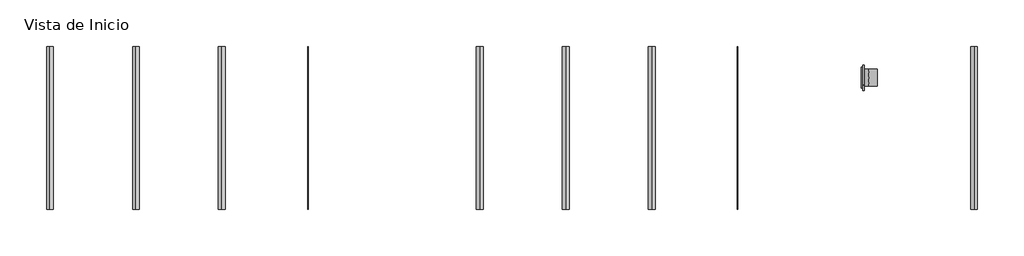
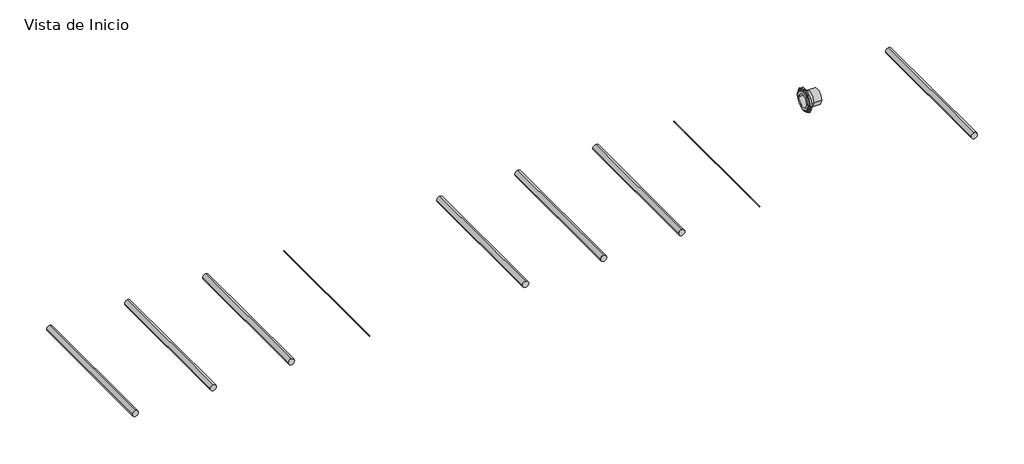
# One storey, incomplete: 9 pipe segments, 2 pipe fittings.
"""IFC4 building model written with IfcOpenShell, lengths in millimetres."""

from ifc_helpers import new_model, si_unit, point, frame, frame_2d, origin, place, context, project, spatial, circle_curve, trimmed, segment, composite_curve, outline, extrude, transform, mapped, element, save
from components import pn10_7f7526d7, var_b38d9553

model = new_model("IFC4")

# Units and contexts
model_context = context("Model", 3, world=origin())
ifc_project = project(units=[si_unit("LENGTHUNIT", "METRE", prefix="MILLI")], contexts=[model_context])

# Site, building, storey
site = spatial("IfcSite", under=ifc_project)
building = spatial("IfcBuilding", under=site)
storey = spatial("IfcBuildingStorey", under=building, Name="Vista de Inicio", Elevation=0.0)

# Pipe fittings
placement = place(None, origin())
pn10_shape = pn10_7f7526d7(model_context)
element("IfcPipeFitting", 1, ObjectType="PavcoWavin_UnionesDeTuberia_PEAD Acuaflex_Portaflanche : PN10", at=placement, inside=storey, context=model_context, shape_type="MappedRepresentation", body=[
    mapped(pn10_shape, transform((-116.8426213, 2794.0299409, 0.0), x_axis=(1.0, 0.0, 0.0), y_axis=(0.0, 1.0, 0.0), z_axis=(0.0, 0.0, 1.0))),
])
var_shape = var_b38d9553(model_context)
element("IfcPipeFitting", 2, ObjectType="PavcoWavin_UnionesDeTuberia_PEAD Acuaflex_ZNousarFlancheMetálicoUniversal : Var.", at=placement, inside=storey, context=model_context, shape_type="MappedRepresentation", body=[
    mapped(var_shape, transform((-263.5926213, 2794.0299409, 0.0), x_axis=(1.0, 0.0, 0.0), y_axis=(0.0, 1.0, 0.0), z_axis=(0.0, 0.0, 1.0))),
])

# Pipe segments
element("IfcPipeSegment", 3, ObjectType="PavcoWavin_Tuberías Flexibles_PEAD Acuaflex_PE 100_PN 10_RDE 17_63mm a 400mm", at=placement, inside=storey, context=model_context, shape_type="SweptSolid", body=[
    extrude(outline(composite_curve([segment(trimmed(circle_curve(frame_2d((0.0, -19171.905233)), 80.0), [point((0.0, -19251.905233))], [point((-80.0, -19171.905233))], False, "CARTESIAN"), True, "CONTINUOUS"), segment(trimmed(circle_curve(frame_2d((0.0, -19171.905233)), 80.0), [point((-80.0, -19171.905233))], [point((0.0, -19091.905233))], False, "CARTESIAN"), True, "CONTINUOUS"), segment(trimmed(circle_curve(frame_2d((0.0, -19171.905233)), 80.0), [point((0.0, -19091.905233))], [point((80.0, -19171.905233))], False, "CARTESIAN"), True, "CONTINUOUS"), segment(trimmed(circle_curve(frame_2d((0.0, -19171.905233)), 80.0), [point((80.0, -19171.905233))], [point((0.0, -19251.905233))], False, "CARTESIAN"), True, "CONTINUOUS")], self_intersect=False)), frame((0.0, -276.4842564, 0.0), z_axis=(0.0, 1.0, 0.0), x_axis=(0.0, 0.0, 1.0)), (0.0, 0.0, 1.0), 3800.0),
])
element("IfcPipeSegment", 4, ObjectType="PavcoWavin_Tuberías Flexibles_PEAD Acuaflex_PE 100_PN 12.5_RDE 14_63mm a 400mm", at=placement, inside=storey, context=model_context, shape_type="SweptSolid", body=[
    extrude(outline(composite_curve([segment(trimmed(circle_curve(frame_2d((0.0, -17171.9797078)), 80.0), [point((0.0, -17251.9797078))], [point((-80.0, -17171.9797078))], False, "CARTESIAN"), True, "CONTINUOUS"), segment(trimmed(circle_curve(frame_2d((0.0, -17171.9797078)), 80.0), [point((-80.0, -17171.9797078))], [point((0.0, -17091.9797078))], False, "CARTESIAN"), True, "CONTINUOUS"), segment(trimmed(circle_curve(frame_2d((0.0, -17171.9797078)), 80.0), [point((0.0, -17091.9797078))], [point((80.0, -17171.9797078))], False, "CARTESIAN"), True, "CONTINUOUS"), segment(trimmed(circle_curve(frame_2d((0.0, -17171.9797078)), 80.0), [point((80.0, -17171.9797078))], [point((0.0, -17251.9797078))], False, "CARTESIAN"), True, "CONTINUOUS")], self_intersect=False)), frame((0.0, -276.4842564, 0.0), z_axis=(0.0, 1.0, 0.0), x_axis=(0.0, 0.0, 1.0)), (0.0, 0.0, 1.0), 3800.0),
])
element("IfcPipeSegment", 5, ObjectType="PavcoWavin_Tuberías Flexibles_PEAD Acuaflex_PE 100_PN 20_RDE 9_16 mm", at=placement, inside=storey, context=model_context, shape_type="SweptSolid", body=[
    extrude(outline(composite_curve([segment(trimmed(circle_curve(frame_2d((0.0, -13172.1286575)), 8.0), [point((0.0, -13180.1286575))], [point((-8.0, -13172.1286575))], False, "CARTESIAN"), True, "CONTINUOUS"), segment(trimmed(circle_curve(frame_2d((0.0, -13172.1286575)), 8.0), [point((-8.0, -13172.1286575))], [point((0.0, -13164.1286575))], False, "CARTESIAN"), True, "CONTINUOUS"), segment(trimmed(circle_curve(frame_2d((0.0, -13172.1286575)), 8.0), [point((0.0, -13164.1286575))], [point((8.0, -13172.1286575))], False, "CARTESIAN"), True, "CONTINUOUS"), segment(trimmed(circle_curve(frame_2d((0.0, -13172.1286575)), 8.0), [point((8.0, -13172.1286575))], [point((0.0, -13180.1286575))], False, "CARTESIAN"), True, "CONTINUOUS")], self_intersect=False)), frame((0.0, -276.4842564, 0.0), z_axis=(0.0, 1.0, 0.0), x_axis=(0.0, 0.0, 1.0)), (0.0, 0.0, 1.0), 3800.0),
])
element("IfcPipeSegment", 6, ObjectType="PavcoWavin_Tuberías Flexibles_PEAD Acuaflex_PE 100_PN 16_RDE 11_20mm a 400mm", at=placement, inside=storey, context=model_context, shape_type="SweptSolid", body=[
    extrude(outline(composite_curve([segment(trimmed(circle_curve(frame_2d((0.0, -15172.0541826)), 80.0), [point((0.0, -15252.0541826))], [point((-80.0, -15172.0541826))], False, "CARTESIAN"), True, "CONTINUOUS"), segment(trimmed(circle_curve(frame_2d((0.0, -15172.0541826)), 80.0), [point((-80.0, -15172.0541826))], [point((0.0, -15092.0541826))], False, "CARTESIAN"), True, "CONTINUOUS"), segment(trimmed(circle_curve(frame_2d((0.0, -15172.0541826)), 80.0), [point((0.0, -15092.0541826))], [point((80.0, -15172.0541826))], False, "CARTESIAN"), True, "CONTINUOUS"), segment(trimmed(circle_curve(frame_2d((0.0, -15172.0541826)), 80.0), [point((80.0, -15172.0541826))], [point((0.0, -15252.0541826))], False, "CARTESIAN"), True, "CONTINUOUS")], self_intersect=False)), frame((0.0, -276.4842564, 0.0), z_axis=(0.0, 1.0, 0.0), x_axis=(0.0, 0.0, 1.0)), (0.0, 0.0, 1.0), 3800.0),
])
element("IfcPipeSegment", 7, ObjectType="PavcoWavin_Tuberías_PEAD Acuaflex_PE 100_PN 10_RDE 17_63mm a 400mm", at=placement, inside=storey, context=model_context, shape_type="SweptSolid", body=[
    extrude(outline(composite_curve([segment(trimmed(circle_curve(frame_2d((0.0, -9172.2776072)), 80.0), [point((0.0, -9252.2776072))], [point((-80.0, -9172.2776072))], False, "CARTESIAN"), True, "CONTINUOUS"), segment(trimmed(circle_curve(frame_2d((0.0, -9172.2776072)), 80.0), [point((-80.0, -9172.2776072))], [point((0.0, -9092.2776072))], False, "CARTESIAN"), True, "CONTINUOUS"), segment(trimmed(circle_curve(frame_2d((0.0, -9172.2776072)), 80.0), [point((0.0, -9092.2776072))], [point((80.0, -9172.2776072))], False, "CARTESIAN"), True, "CONTINUOUS"), segment(trimmed(circle_curve(frame_2d((0.0, -9172.2776072)), 80.0), [point((80.0, -9172.2776072))], [point((0.0, -9252.2776072))], False, "CARTESIAN"), True, "CONTINUOUS")], self_intersect=False)), frame((0.0, -276.4842564, 0.0), z_axis=(0.0, 1.0, 0.0), x_axis=(0.0, 0.0, 1.0)), (0.0, 0.0, 1.0), 3800.0),
])
element("IfcPipeSegment", 8, ObjectType="PavcoWavin_Tuberías_PEAD Acuaflex_PE 100_PN 12.5_RDE 14_63mm a 400mm", at=placement, inside=storey, context=model_context, shape_type="SweptSolid", body=[
    extrude(outline(composite_curve([segment(trimmed(circle_curve(frame_2d((0.0, -7172.352082)), 80.0), [point((0.0, -7252.352082))], [point((-80.0, -7172.352082))], False, "CARTESIAN"), True, "CONTINUOUS"), segment(trimmed(circle_curve(frame_2d((0.0, -7172.352082)), 80.0), [point((-80.0, -7172.352082))], [point((0.0, -7092.352082))], False, "CARTESIAN"), True, "CONTINUOUS"), segment(trimmed(circle_curve(frame_2d((0.0, -7172.352082)), 80.0), [point((0.0, -7092.352082))], [point((80.0, -7172.352082))], False, "CARTESIAN"), True, "CONTINUOUS"), segment(trimmed(circle_curve(frame_2d((0.0, -7172.352082)), 80.0), [point((80.0, -7172.352082))], [point((0.0, -7252.352082))], False, "CARTESIAN"), True, "CONTINUOUS")], self_intersect=False)), frame((0.0, -276.4842564, 0.0), z_axis=(0.0, 1.0, 0.0), x_axis=(0.0, 0.0, 1.0)), (0.0, 0.0, 1.0), 3800.0),
])
element("IfcPipeSegment", 9, ObjectType="PavcoWavin_Tuberías_PEAD Acuaflex_PE 100_PN 16_RDE 11_20mm a 400mm", at=placement, inside=storey, context=model_context, shape_type="SweptSolid", body=[
    extrude(outline(composite_curve([segment(trimmed(circle_curve(frame_2d((0.0, -5172.4265569)), 80.0), [point((0.0, -5252.4265569))], [point((-80.0, -5172.4265569))], False, "CARTESIAN"), True, "CONTINUOUS"), segment(trimmed(circle_curve(frame_2d((0.0, -5172.4265569)), 80.0), [point((-80.0, -5172.4265569))], [point((0.0, -5092.4265569))], False, "CARTESIAN"), True, "CONTINUOUS"), segment(trimmed(circle_curve(frame_2d((0.0, -5172.4265569)), 80.0), [point((0.0, -5092.4265569))], [point((80.0, -5172.4265569))], False, "CARTESIAN"), True, "CONTINUOUS"), segment(trimmed(circle_curve(frame_2d((0.0, -5172.4265569)), 80.0), [point((80.0, -5172.4265569))], [point((0.0, -5252.4265569))], False, "CARTESIAN"), True, "CONTINUOUS")], self_intersect=False)), frame((0.0, -276.4842564, 0.0), z_axis=(0.0, 1.0, 0.0), x_axis=(0.0, 0.0, 1.0)), (0.0, 0.0, 1.0), 3800.0),
])
element("IfcPipeSegment", 10, ObjectType="PavcoWavin_Tuberías_PEAD Acuaflex_PE 100_PN 20_RDE 9_16 mm", at=placement, inside=storey, context=model_context, shape_type="SweptSolid", body=[
    extrude(outline(composite_curve([segment(trimmed(circle_curve(frame_2d((0.0, -3172.5010317)), 8.0), [point((0.0, -3180.5010317))], [point((-8.0, -3172.5010317))], False, "CARTESIAN"), True, "CONTINUOUS"), segment(trimmed(circle_curve(frame_2d((0.0, -3172.5010317)), 8.0), [point((-8.0, -3172.5010317))], [point((0.0, -3164.5010317))], False, "CARTESIAN"), True, "CONTINUOUS"), segment(trimmed(circle_curve(frame_2d((0.0, -3172.5010317)), 8.0), [point((0.0, -3164.5010317))], [point((8.0, -3172.5010317))], False, "CARTESIAN"), True, "CONTINUOUS"), segment(trimmed(circle_curve(frame_2d((0.0, -3172.5010317)), 8.0), [point((8.0, -3172.5010317))], [point((0.0, -3180.5010317))], False, "CARTESIAN"), True, "CONTINUOUS")], self_intersect=False)), frame((0.0, -276.4842564, 0.0), z_axis=(0.0, 1.0, 0.0), x_axis=(0.0, 0.0, 1.0)), (0.0, 0.0, 1.0), 3800.0),
])
element("IfcPipeSegment", 11, ObjectType="PavcoWavin_Tuberías_PEAD Acuaflex_PE 100_PN 10_RDE 17_63mm a 400mm", at=placement, inside=storey, context=model_context, shape_type="SweptSolid", body=[
    extrude(outline(composite_curve([segment(trimmed(circle_curve(frame_2d((0.0, 2327.7223928)), 80.0), [point((0.0, 2247.7223928))], [point((-80.0, 2327.7223928))], False, "CARTESIAN"), True, "CONTINUOUS"), segment(trimmed(circle_curve(frame_2d((0.0, 2327.7223928)), 80.0), [point((-80.0, 2327.7223928))], [point((0.0, 2407.7223928))], False, "CARTESIAN"), True, "CONTINUOUS"), segment(trimmed(circle_curve(frame_2d((0.0, 2327.7223928)), 80.0), [point((0.0, 2407.7223928))], [point((80.0, 2327.7223928))], False, "CARTESIAN"), True, "CONTINUOUS"), segment(trimmed(circle_curve(frame_2d((0.0, 2327.7223928)), 80.0), [point((80.0, 2327.7223928))], [point((0.0, 2247.7223928))], False, "CARTESIAN"), True, "CONTINUOUS")], self_intersect=False)), frame((0.0, -276.4842564, 0.0), z_axis=(0.0, 1.0, 0.0), x_axis=(0.0, 0.0, 1.0)), (0.0, 0.0, 1.0), 3800.0),
])

save(model, "model.ifc")
